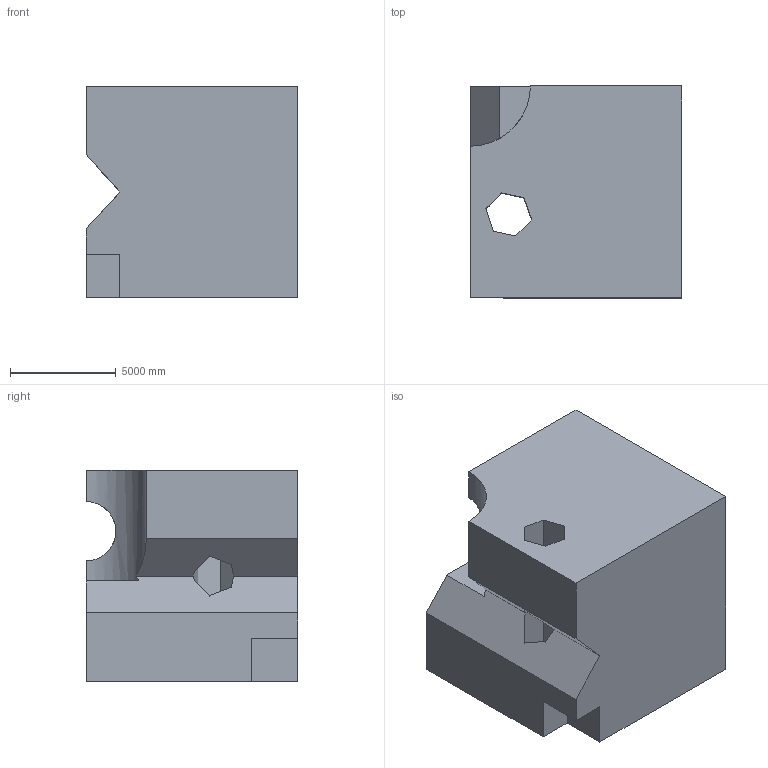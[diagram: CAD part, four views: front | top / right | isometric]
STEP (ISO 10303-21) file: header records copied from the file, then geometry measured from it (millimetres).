
FILE_DESCRIPTION (( 'STEP AP203' ), '1' );
FILE_NAME ('516.STEP', '2022-07-29T11:36:32', ( 'user' ), ( '' ), 'SwSTEP 2.0', 'SolidWorks 2021', '' );
FILE_SCHEMA (( 'CONFIG_CONTROL_DESIGN' ));
Length unit declared in the file: centimetre
Products named in the file (1): 516
Bounding box: 10000 x 10000 x 10000 mm (x, y, z)
Volume: 868521514975.7 mm3; surface area: 669547412.2 mm2
Topology: 1 solids, 1 shells, 28 faces, 84 edges, 56 vertices
Faces by surface type: plane 25, cylinder 3
Entity records: 1185 total; most frequent: CARTESIAN_POINT 343, ORIENTED_EDGE 168, DIRECTION 145, EDGE_CURVE 84, VECTOR 75, LINE 75, VERTEX_POINT 56, AXIS2_PLACEMENT_3D 35
